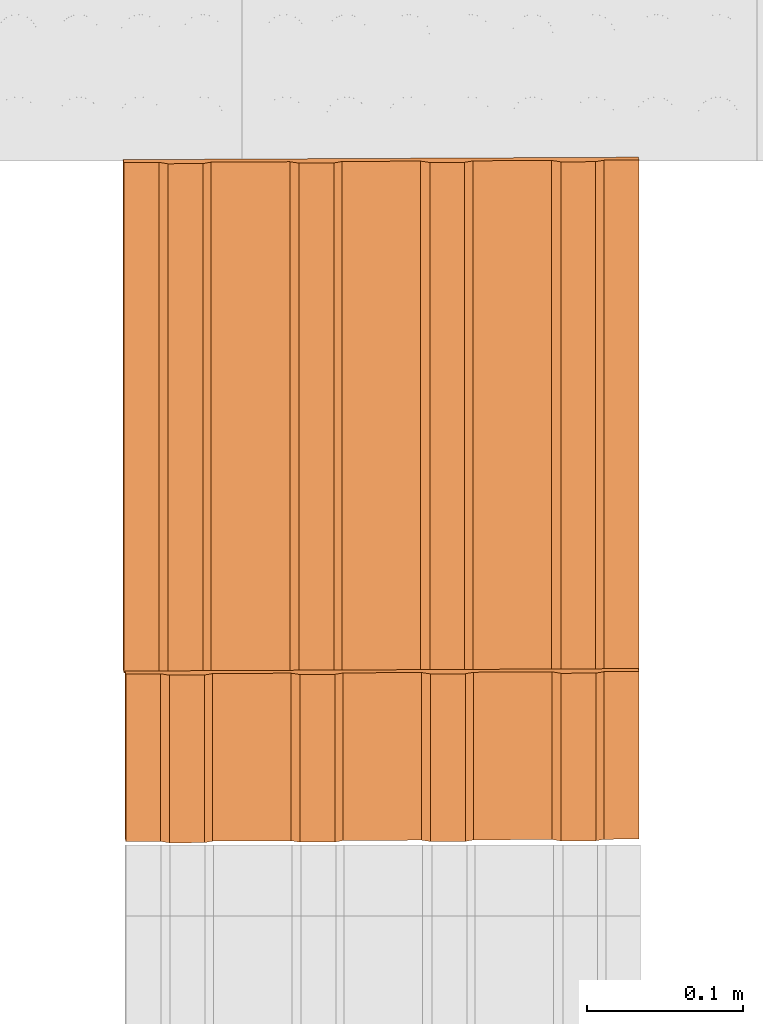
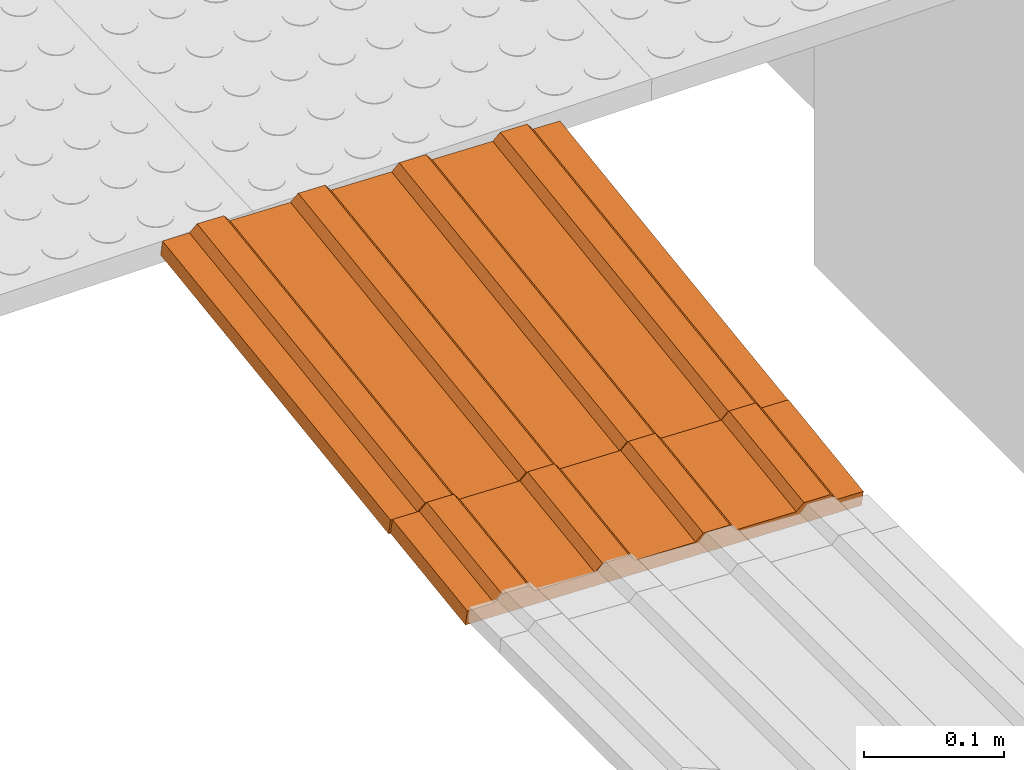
# One storey, part 221 of 237: 2 proxies.
"""IFC2X3 building model written with IfcOpenShell, lengths in millimetres."""

from ifc_helpers import new_model, entity, si_unit, converted_unit, derived_unit, money_unit, direction, frame, origin_with_axes, place, context, subcontext, project, spatial, open_shell, surface_model, type_object, element, save


model = new_model("IFC2X3")

# Units and contexts
model_context = context("Model", 3, precision=0.01, world=origin_with_axes(), true_north=direction((0.0, 1.0)))
body_context = subcontext(model_context, "Body", "Model", "MODEL_VIEW")
ifc_project = project(units=[si_unit("LENGTHUNIT", "METRE", prefix="MILLI"), si_unit("AREAUNIT", "SQUARE_METRE"), si_unit("VOLUMEUNIT", "CUBIC_METRE"), converted_unit("PLANEANGLEUNIT", "DEGREE", entity("IfcPlaneAngleMeasure", 0.0174532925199), si_unit("PLANEANGLEUNIT", "RADIAN"), dimensions=[0, 0, 0, 0, 0, 0, 0]), money_unit("USD"), converted_unit("TIMEUNIT", "Year", entity("IfcTimeMeasure", 31556926.0), si_unit("TIMEUNIT", "SECOND"), dimensions=[0, 0, 1, 0, 0, 0, 0]), si_unit("MASSUNIT", "GRAM", prefix="KILO"), si_unit("THERMODYNAMICTEMPERATUREUNIT", "DEGREE_CELSIUS"), si_unit("LUMINOUSINTENSITYUNIT", "LUMEN"), si_unit("ENERGYUNIT", "JOULE", prefix="MEGA"), derived_unit("THERMALCONDUCTANCEUNIT", [(si_unit("POWERUNIT", "WATT"), 1), (si_unit("LENGTHUNIT", "METRE"), -1), (si_unit("THERMODYNAMICTEMPERATUREUNIT", "KELVIN"), -1)]), derived_unit("SPECIFICHEATCAPACITYUNIT", [(si_unit("ENERGYUNIT", "JOULE"), 1), (si_unit("MASSUNIT", "GRAM", prefix="KILO"), -1), (si_unit("THERMODYNAMICTEMPERATUREUNIT", "KELVIN"), -1)]), derived_unit("MASSDENSITYUNIT", [(si_unit("MASSUNIT", "GRAM", prefix="KILO"), 1), (si_unit("VOLUMEUNIT", "CUBIC_METRE"), -1)])], contexts=[model_context])

# Site, building, storey
site_placement = place(None, origin_with_axes())
site = spatial("IfcSite", under=ifc_project, at=site_placement, Name="Local", CompositionType="ELEMENT")
building_placement = place(site_placement, origin_with_axes())
building = spatial("IfcBuilding", under=site, at=building_placement, Name="Construção", CompositionType="ELEMENT")
storey_placement = place(building_placement, origin_with_axes())
storey = spatial("IfcBuildingStorey", under=building, at=storey_placement, Name="Pavimento Térreo", CompositionType="ELEMENT", Elevation=0.0)

# Proxies
building_element_proxy_type = type_object("IfcBuildingElementProxyType", Name="Piso Direcional 27", PredefinedType="NOTDEFINED")
proxy_1_placement = place(storey_placement, frame((84124.0983078, 12461.3896355, -5281.74420491), z_axis=(0.0, 0.0, 1.0), x_axis=(0.0, -1.0, 0.0)))
element("IfcBuildingElementProxy", 1, at=proxy_1_placement, inside=storey, type_object=building_element_proxy_type, Name="Objeto-0055", context=body_context, shape_type="SurfaceModel", body=[
    surface_model("IfcShellBasedSurfaceModel", [(0.789856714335, -47.0888435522, 5.6201225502), (327.578319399, -47.0888435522, -40.3070007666), (328.4784082, -41.2663671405, -33.9025361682), (1.68994551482, -41.2663671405, 12.0245871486)], [open_shell([[[0, 1, 2, 3]]])]),
    surface_model("IfcShellBasedSurfaceModel", [(326.239975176, -153.76061908, -49.829814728), (324.637141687, 176.038353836, -61.2345676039), (326.491652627, 176.503680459, -48.0390366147), (326.600319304, 154.144428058, -47.2658330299), (327.554741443, 148.787278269, -40.4747666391), (327.663408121, 126.428025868, -39.7015630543), (326.76331932, 120.605549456, -46.1060276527), (327.007819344, 70.2972315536, -44.3663195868), (327.962241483, 64.9400817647, -37.575253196), (328.07090816, 42.5808293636, -36.8020496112), (327.17081936, 36.758352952, -43.2065142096), (327.415319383, -13.5499649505, -41.4668061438), (328.369741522, -18.9071147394, -34.675739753), (328.4784082, -41.2663671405, -33.9025361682), (327.578319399, -47.0888435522, -40.3070007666), (327.822819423, -97.3971614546, -38.5672927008), (328.777241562, -102.754311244, -31.77622631), (328.885908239, -125.113563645, -31.0030227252), (327.985819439, -130.936040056, -37.4074873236), (328.094486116, -153.295292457, -36.6342837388)], [open_shell([[[0, 1, 2, 3, 4, 5, 6, 7, 8, 9, 10, 11, 12, 13, 14, 15, 16, 17, 18, 19]]])]),
    surface_model("IfcShellBasedSurfaceModel", [(1.58127883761, -18.9071147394, 11.2513835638), (328.369741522, -18.9071147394, -34.675739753), (327.415319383, -13.5499649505, -41.4668061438), (0.62685669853, -13.5499649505, 4.460317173)], [open_shell([[[0, 1, 2, 3]]])]),
    surface_model("IfcShellBasedSurfaceModel", [(1.98877887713, -102.754311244, 14.1508970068), (328.777241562, -102.754311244, -31.77622631), (327.822819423, -97.3971614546, -38.5672927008), (1.03435673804, -97.3971614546, 7.35983061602)], [open_shell([[[0, 1, 2, 3]]])]),
    surface_model("IfcShellBasedSurfaceModel", [(1.1737787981, 64.9400817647, 8.35187012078), (327.962241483, 64.9400817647, -37.575253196), (327.007819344, 70.2972315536, -44.3663195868), (0.219356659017, 70.2972315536, 1.56080372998)], [open_shell([[[0, 1, 2, 3]]])]),
    surface_model("IfcShellBasedSurfaceModel", [(0.382356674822, 36.758352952, 2.72060910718), (327.17081936, 36.758352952, -43.2065142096), (328.07090816, 42.5808293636, -36.8020496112), (1.2824454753, 42.5808293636, 9.12507370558)], [open_shell([[[0, 1, 2, 3]]])]),
    surface_model("IfcShellBasedSurfaceModel", [(1.19735675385, -130.936040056, 8.51963599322), (327.985819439, -130.936040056, -37.4074873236), (328.885908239, -125.113563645, -31.0030227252), (2.09744555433, -125.113563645, 14.9241005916)], [open_shell([[[0, 1, 2, 3]]])]),
    surface_model("IfcShellBasedSurfaceModel", [(-0.296810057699, 176.503680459, -2.11191329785), (-0.188143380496, 154.144428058, -1.33870971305), (326.600319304, 154.144428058, -47.2658330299), (326.491652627, 176.503680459, -48.0390366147)], [open_shell([[[0, 1, 2, 3]]])]),
    surface_model("IfcShellBasedSurfaceModel", [(-0.0251433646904, 120.605549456, -0.178904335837), (326.76331932, 120.605549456, -46.1060276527), (327.663408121, 126.428025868, -39.7015630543), (0.874945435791, 126.428025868, 6.22556026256)], [open_shell([[[0, 1, 2, 3]]])]),
    surface_model("IfcShellBasedSurfaceModel", [(0.766278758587, 148.787278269, 5.45235667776), (327.554741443, 148.787278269, -40.4747666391), (326.600319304, 154.144428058, -47.2658330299), (-0.188143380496, 154.144428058, -1.33870971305)], [open_shell([[[0, 1, 2, 3]]])]),
    surface_model("IfcShellBasedSurfaceModel", [(0.382356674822, 36.758352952, 2.72060910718), (0.62685669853, -13.5499649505, 4.460317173), (327.415319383, -13.5499649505, -41.4668061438), (327.17081936, 36.758352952, -43.2065142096)], [open_shell([[[0, 1, 2, 3]]])]),
    surface_model("IfcShellBasedSurfaceModel", [(-0.0251433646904, 120.605549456, -0.178904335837), (0.219356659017, 70.2972315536, 1.56080372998), (327.007819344, 70.2972315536, -44.3663195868), (326.76331932, 120.605549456, -46.1060276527)], [open_shell([[[0, 1, 2, 3]]])]),
    surface_model("IfcShellBasedSurfaceModel", [(0.766278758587, 148.787278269, 5.45235667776), (0.874945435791, 126.428025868, 6.22556026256), (327.663408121, 126.428025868, -39.7015630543), (327.554741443, 148.787278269, -40.4747666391)], [open_shell([[[0, 1, 2, 3]]])]),
    surface_model("IfcShellBasedSurfaceModel", [(-0.0251433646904, 120.605549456, -0.178904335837), (0.874945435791, 126.428025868, 6.22556026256), (0.766278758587, 148.787278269, 5.45235667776), (-0.188143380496, 154.144428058, -1.33870971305), (-0.296810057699, 176.503680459, -2.11191329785), (-2.15132099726, 176.038353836, -15.3074442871), (-0.548487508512, -153.76061908, -3.90269141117), (1.30602343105, -153.295292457, 9.29283957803), (1.19735675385, -130.936040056, 8.51963599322), (2.09744555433, -125.113563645, 14.9241005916), (1.98877887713, -102.754311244, 14.1508970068), (1.03435673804, -97.3971614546, 7.35983061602), (0.789856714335, -47.0888435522, 5.6201225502), (1.68994551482, -41.2663671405, 12.0245871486), (1.58127883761, -18.9071147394, 11.2513835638), (0.62685669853, -13.5499649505, 4.460317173), (0.382356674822, 36.758352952, 2.72060910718), (1.2824454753, 42.5808293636, 9.12507370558), (1.1737787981, 64.9400817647, 8.35187012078), (0.219356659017, 70.2972315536, 1.56080372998)], [open_shell([[[0, 1, 2, 3, 4, 5, 6, 7, 8, 9, 10, 11, 12, 13, 14, 15, 16, 17, 18, 19]]])]),
    surface_model("IfcShellBasedSurfaceModel", [(328.4784082, -41.2663671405, -33.9025361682), (328.369741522, -18.9071147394, -34.675739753), (1.58127883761, -18.9071147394, 11.2513835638), (1.68994551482, -41.2663671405, 12.0245871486)], [open_shell([[[0, 1, 2, 3]]])]),
    surface_model("IfcShellBasedSurfaceModel", [(0.789856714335, -47.0888435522, 5.6201225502), (1.03435673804, -97.3971614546, 7.35983061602), (327.822819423, -97.3971614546, -38.5672927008), (327.578319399, -47.0888435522, -40.3070007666)], [open_shell([[[0, 1, 2, 3]]])]),
    surface_model("IfcShellBasedSurfaceModel", [(328.07090816, 42.5808293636, -36.8020496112), (327.962241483, 64.9400817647, -37.575253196), (1.1737787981, 64.9400817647, 8.35187012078), (1.2824454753, 42.5808293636, 9.12507370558)], [open_shell([[[0, 1, 2, 3]]])]),
    surface_model("IfcShellBasedSurfaceModel", [(328.885908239, -125.113563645, -31.0030227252), (328.777241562, -102.754311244, -31.77622631), (1.98877887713, -102.754311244, 14.1508970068), (2.09744555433, -125.113563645, 14.9241005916)], [open_shell([[[0, 1, 2, 3]]])]),
    surface_model("IfcShellBasedSurfaceModel", [(324.637141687, 176.038353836, -61.2345676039), (-2.15132099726, 176.038353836, -15.3074442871), (-0.296810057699, 176.503680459, -2.11191329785), (326.491652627, 176.503680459, -48.0390366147)], [open_shell([[[0, 1, 2, 3]]])]),
    surface_model("IfcShellBasedSurfaceModel", [(326.239975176, -153.76061908, -49.829814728), (-0.548487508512, -153.76061908, -3.90269141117), (-2.15132099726, 176.038353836, -15.3074442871), (324.637141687, 176.038353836, -61.2345676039)], [open_shell([[[0, 1, 2, 3]]])]),
    surface_model("IfcShellBasedSurfaceModel", [(328.094486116, -153.295292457, -36.6342837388), (327.985819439, -130.936040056, -37.4074873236), (1.19735675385, -130.936040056, 8.51963599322), (1.30602343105, -153.295292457, 9.29283957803)], [open_shell([[[0, 1, 2, 3]]])]),
    surface_model("IfcShellBasedSurfaceModel", [(-0.548487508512, -153.76061908, -3.90269141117), (326.239975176, -153.76061908, -49.829814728), (328.094486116, -153.295292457, -36.6342837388), (1.30602343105, -153.295292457, 9.29283957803)], [open_shell([[[0, 1, 2, 3]]])]),
])
proxy_2_placement = place(storey_placement, frame((84124.7360146, 12133.9335979, -5327.11889012), z_axis=(0.0, 0.0, 1.0), x_axis=(0.0, -1.0, 0.0)))
element("IfcBuildingElementProxy", 2, at=proxy_2_placement, inside=storey, type_object=building_element_proxy_type, Name="Objeto-0055", context=body_context, shape_type="SurfaceModel", body=[
    surface_model("IfcShellBasedSurfaceModel", [(0.789027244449, -46.9181718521, 5.61422056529), (108.135150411, -46.9181718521, -9.47229318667), (109.035337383, -41.1158951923, -3.06713006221), (1.68921421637, -41.1158951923, 12.0193836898)], [open_shell([[[0, 1, 2, 3]]])]),
    surface_model("IfcShellBasedSurfaceModel", [(106.794940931, -153.206152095, -19.0083791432), (105.197899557, 175.401035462, -30.3719189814), (107.052410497, 175.866362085, -17.1763879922), (107.160684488, 153.587908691, -16.4059785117), (108.115008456, 148.250958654, -9.61561064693), (108.223282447, 125.972505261, -8.84520116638), (107.323095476, 120.170228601, -15.2503642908), (107.566711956, 70.043708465, -13.5169429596), (108.521035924, 64.7067584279, -6.72657509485), (108.629309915, 42.4283050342, -5.95616561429), (107.729122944, 36.6260283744, -12.3613287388), (107.972739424, -13.5004917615, -10.6279074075), (108.927063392, -18.8374417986, -3.83753954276), (109.035337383, -41.1158951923, -3.06713006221), (108.135150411, -46.9181718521, -9.47229318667), (108.378766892, -97.044691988, -7.73887185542), (109.33309086, -102.381642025, -0.948503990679), (109.441364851, -124.660095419, -0.178094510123), (108.541177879, -130.462372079, -6.58325763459), (108.649451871, -152.740825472, -5.81284815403)], [open_shell([[[0, 1, 2, 3, 4, 5, 6, 7, 8, 9, 10, 11, 12, 13, 14, 15, 16, 17, 18, 19]]])]),
    surface_model("IfcShellBasedSurfaceModel", [(1.58094022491, -18.8374417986, 11.2489742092), (108.927063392, -18.8374417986, -3.83753954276), (107.972739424, -13.5004917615, -10.6279074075), (0.626616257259, -13.5004917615, 4.45860634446)], [open_shell([[[0, 1, 2, 3]]])]),
    surface_model("IfcShellBasedSurfaceModel", [(1.98696769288, -102.381642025, 14.1380097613), (109.33309086, -102.381642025, -0.948503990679), (108.378766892, -97.044691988, -7.73887185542), (1.03264372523, -97.044691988, 7.34764189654)], [open_shell([[[0, 1, 2, 3]]])]),
    surface_model("IfcShellBasedSurfaceModel", [(1.17491275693, 64.7067584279, 8.35993865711), (108.521035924, 64.7067584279, -6.72657509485), (107.566711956, 70.043708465, -13.5169429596), (0.220588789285, 70.043708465, 1.56957079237)], [open_shell([[[0, 1, 2, 3]]])]),
    surface_model("IfcShellBasedSurfaceModel", [(0.382999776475, 36.6260283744, 2.72518501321), (107.729122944, 36.6260283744, -12.3613287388), (108.629309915, 42.4283050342, -5.95616561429), (1.28318674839, 42.4283050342, 9.13034813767)], [open_shell([[[0, 1, 2, 3]]])]),
    surface_model("IfcShellBasedSurfaceModel", [(1.19505471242, -130.462372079, 8.50325611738), (108.541177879, -130.462372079, -6.58325763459), (109.441364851, -124.660095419, -0.178094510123), (2.09524168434, -124.660095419, 14.9084192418)], [open_shell([[[0, 1, 2, 3]]])]),
    surface_model("IfcShellBasedSurfaceModel", [(-0.29371267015, 175.866362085, -2.08987424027), (-0.18543867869, 153.587908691, -1.31946475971), (107.160684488, 153.587908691, -16.4059785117), (107.052410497, 175.866362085, -17.1763879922)], [open_shell([[[0, 1, 2, 3]]])]),
    surface_model("IfcShellBasedSurfaceModel", [(-0.0230276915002, 120.170228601, -0.163850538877), (107.323095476, 120.170228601, -15.2503642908), (108.223282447, 125.972505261, -8.84520116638), (0.877159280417, 125.972505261, 6.24131258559)], [open_shell([[[0, 1, 2, 3]]])]),
    surface_model("IfcShellBasedSurfaceModel", [(0.768885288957, 148.250958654, 5.47090310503), (108.115008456, 148.250958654, -9.61561064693), (107.160684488, 153.587908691, -16.4059785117), (-0.18543867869, 153.587908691, -1.31946475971)], [open_shell([[[0, 1, 2, 3]]])]),
    surface_model("IfcShellBasedSurfaceModel", [(0.382999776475, 36.6260283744, 2.72518501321), (0.626616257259, -13.5004917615, 4.45860634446), (107.972739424, -13.5004917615, -10.6279074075), (107.729122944, 36.6260283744, -12.3613287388)], [open_shell([[[0, 1, 2, 3]]])]),
    surface_model("IfcShellBasedSurfaceModel", [(-0.0230276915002, 120.170228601, -0.163850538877), (0.220588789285, 70.043708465, 1.56957079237), (107.566711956, 70.043708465, -13.5169429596), (107.323095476, 120.170228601, -15.2503642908)], [open_shell([[[0, 1, 2, 3]]])]),
    surface_model("IfcShellBasedSurfaceModel", [(0.768885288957, 148.250958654, 5.47090310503), (0.877159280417, 125.972505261, 6.24131258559), (108.223282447, 125.972505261, -8.84520116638), (108.115008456, 148.250958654, -9.61561064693)], [open_shell([[[0, 1, 2, 3]]])]),
    surface_model("IfcShellBasedSurfaceModel", [(-0.0230276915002, 120.170228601, -0.163850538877), (0.877159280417, 125.972505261, 6.24131258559), (0.768885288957, 148.250958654, 5.47090310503), (-0.18543867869, 153.587908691, -1.31946475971), (-0.29371267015, 175.866362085, -2.08987424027), (-2.14822360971, 175.401035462, -15.2854052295), (-0.55118223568, -153.206152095, -3.92186539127), (1.30332870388, -152.740825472, 9.27366559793), (1.19505471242, -130.462372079, 8.50325611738), (2.09524168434, -124.660095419, 14.9084192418), (1.98696769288, -102.381642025, 14.1380097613), (1.03264372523, -97.044691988, 7.34764189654), (0.789027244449, -46.9181718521, 5.61422056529), (1.68921421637, -41.1158951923, 12.0193836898), (1.58094022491, -18.8374417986, 11.2489742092), (0.626616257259, -13.5004917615, 4.45860634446), (0.382999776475, 36.6260283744, 2.72518501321), (1.28318674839, 42.4283050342, 9.13034813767), (1.17491275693, 64.7067584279, 8.35993865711), (0.220588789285, 70.043708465, 1.56957079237)], [open_shell([[[0, 1, 2, 3, 4, 5, 6, 7, 8, 9, 10, 11, 12, 13, 14, 15, 16, 17, 18, 19]]])]),
    surface_model("IfcShellBasedSurfaceModel", [(109.035337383, -41.1158951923, -3.06713006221), (108.927063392, -18.8374417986, -3.83753954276), (1.58094022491, -18.8374417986, 11.2489742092), (1.68921421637, -41.1158951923, 12.0193836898)], [open_shell([[[0, 1, 2, 3]]])]),
    surface_model("IfcShellBasedSurfaceModel", [(0.789027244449, -46.9181718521, 5.61422056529), (1.03264372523, -97.044691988, 7.34764189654), (108.378766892, -97.044691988, -7.73887185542), (108.135150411, -46.9181718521, -9.47229318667)], [open_shell([[[0, 1, 2, 3]]])]),
    surface_model("IfcShellBasedSurfaceModel", [(108.629309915, 42.4283050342, -5.95616561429), (108.521035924, 64.7067584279, -6.72657509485), (1.17491275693, 64.7067584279, 8.35993865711), (1.28318674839, 42.4283050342, 9.13034813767)], [open_shell([[[0, 1, 2, 3]]])]),
    surface_model("IfcShellBasedSurfaceModel", [(109.441364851, -124.660095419, -0.178094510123), (109.33309086, -102.381642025, -0.948503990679), (1.98696769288, -102.381642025, 14.1380097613), (2.09524168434, -124.660095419, 14.9084192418)], [open_shell([[[0, 1, 2, 3]]])]),
    surface_model("IfcShellBasedSurfaceModel", [(105.197899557, 175.401035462, -30.3719189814), (-2.14822360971, 175.401035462, -15.2854052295), (-0.29371267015, 175.866362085, -2.08987424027), (107.052410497, 175.866362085, -17.1763879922)], [open_shell([[[0, 1, 2, 3]]])]),
    surface_model("IfcShellBasedSurfaceModel", [(106.794940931, -153.206152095, -19.0083791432), (-0.55118223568, -153.206152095, -3.92186539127), (-2.14822360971, 175.401035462, -15.2854052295), (105.197899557, 175.401035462, -30.3719189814)], [open_shell([[[0, 1, 2, 3]]])]),
    surface_model("IfcShellBasedSurfaceModel", [(108.649451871, -152.740825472, -5.81284815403), (108.541177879, -130.462372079, -6.58325763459), (1.19505471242, -130.462372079, 8.50325611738), (1.30332870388, -152.740825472, 9.27366559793)], [open_shell([[[0, 1, 2, 3]]])]),
    surface_model("IfcShellBasedSurfaceModel", [(-0.55118223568, -153.206152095, -3.92186539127), (106.794940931, -153.206152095, -19.0083791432), (108.649451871, -152.740825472, -5.81284815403), (1.30332870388, -152.740825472, 9.27366559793)], [open_shell([[[0, 1, 2, 3]]])]),
])

save(model, "model.ifc")
